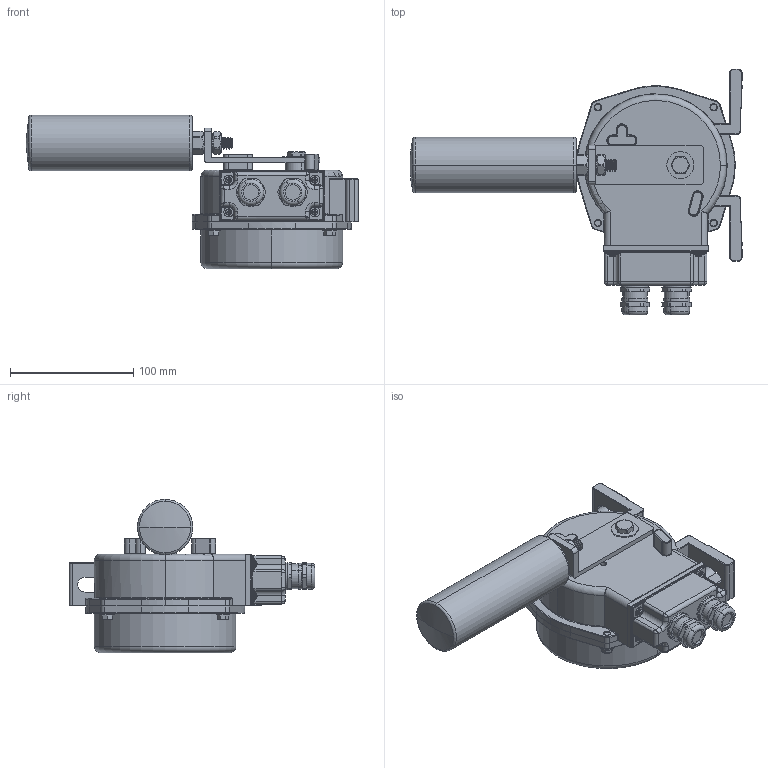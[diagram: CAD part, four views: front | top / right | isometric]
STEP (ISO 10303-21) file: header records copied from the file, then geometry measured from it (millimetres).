
FILE_DESCRIPTION (( 'STEP AP214' ), '1' );
FILE_NAME ('BMS-N àëþìèíèåâàÿ êðûøêà - ðåçüáà.STEP', '2021-02-07T20:46:22', ( '' ), ( '' ), 'SwSTEP 2.0', 'SolidWorks 2020', '' );
FILE_SCHEMA (( 'AUTOMOTIVE_DESIGN' ));
Length unit declared in the file: millimetre
Products named in the file (14): BMS-N àëþìèíèåâàÿ êðûøêà - ðåçüáà; Êðûøêà êîðïóñà; Øòóðöåð ðó÷êè; 幄鼭歑; flat washer regular_am_B18.22M - Plain washer, 2.5 mm, regular; 扻豵鵨; ﾐ鸙韭; Øòóöåð ðîëèêà -ð; hex screw_am_B18.6.7M - M5 x 0.8 x 13 Indented HHMS --13N; pan cross head_am_B18.6.7M - M2.5 x 0.45 x 3 Type I Cross Recessed PHMS --3N; Áîêîâàÿ êðûøêà; Ðó÷êà; 扻錝僝鍧; flat washer narrow_am_B18.22M - Plain washer, 5 mm, narrow
Assembly tree (27 placements, depth 2):
  BMS-N àëþìèíèåâàÿ êðûøêà - ðåçüáà
    扻豵鵨
    Áîêîâàÿ êðûøêà
    Êðûøêà êîðïóñà
    ﾐ鸙韭
    Ðó÷êà
    Øòóðöåð ðó÷êè
    Øòóöåð ðîëèêà -ð
    扻錝僝鍧  x2
    幄鼭歑  x2
    hex screw_am_B18.6.7M - M5 x 0.8 x 13 Indented HHMS --13N  x4
    flat washer narrow_am_B18.22M - Plain washer, 5 mm, narrow  x4
    flat washer regular_am_B18.22M - Plain washer, 2.5 mm, regular  x4
    pan cross head_am_B18.6.7M - M2.5 x 0.45 x 3 Type I Cross Recessed PHMS --3N  x4
Bounding box: 269.5 x 199.6 x 124.5 mm (x, y, z)
Volume: 1303834.8 mm3; surface area: 158873.4 mm2
Topology: 27 solids, 27 shells, 823 faces, 1917 edges, 1160 vertices
Faces by surface type: cylinder 348, plane 282, torus 108, cone 43, bspline 28, sphere 14
Entity records: 21619 total; most frequent: CARTESIAN_POINT 6815, DIRECTION 3185, ORIENTED_EDGE 2866, EDGE_CURVE 1433, AXIS2_PLACEMENT_3D 1293, VERTEX_POINT 873, CIRCLE 679, EDGE_LOOP 674
